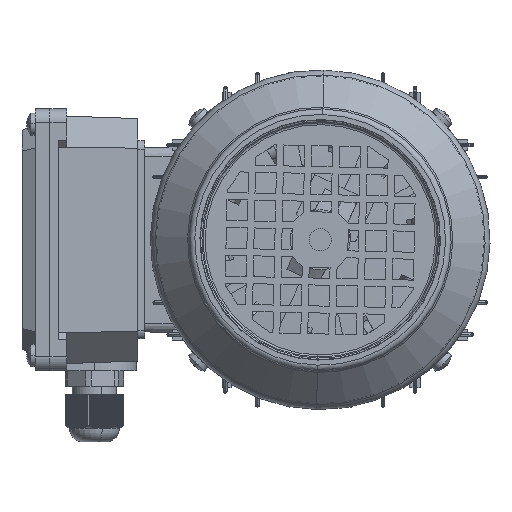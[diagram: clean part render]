
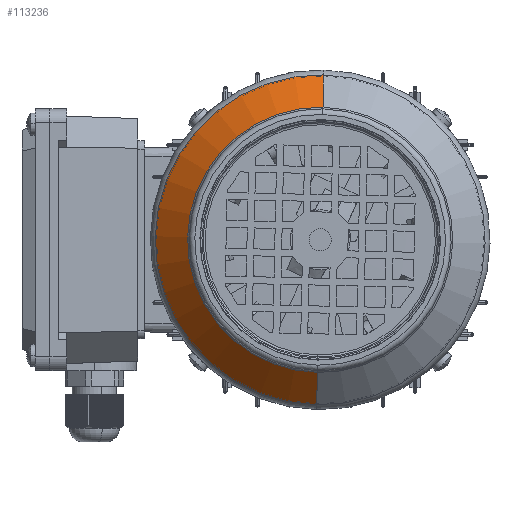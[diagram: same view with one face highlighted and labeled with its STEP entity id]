
A CAD part, left-side view. The second image highlights one B-rep face of the part: STEP entity #113236.
In plain terms, the highlighted conical face has half-angle 45 degrees and reference radius 47.586 mm.
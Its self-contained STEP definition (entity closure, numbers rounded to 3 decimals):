
#969 = CARTESIAN_POINT ( 'NONE',  ( 108.414, 0., 47.586 ) ) ;
#1090 = LINE ( 'NONE', #109073, #53499 ) ;
#3418 = CARTESIAN_POINT ( 'NONE',  ( 108.414, 0., -47.586 ) ) ;
#12176 = CIRCLE ( 'NONE', #63209, 47.586 ) ;
#13025 = EDGE_LOOP ( 'NONE', ( #42925, #118217, #83651, #74033 ) ) ;
#13603 = DIRECTION ( 'NONE',  ( 0., 0., 1. ) ) ;
#21105 = AXIS2_PLACEMENT_3D ( 'NONE', #38161, #25909, #13603 ) ;
#22120 = CARTESIAN_POINT ( 'NONE',  ( 96.807, 0., 0. ) ) ;
#24187 = FACE_OUTER_BOUND ( 'NONE', #13025, .T. ) ;
#24863 = DIRECTION ( 'NONE',  ( 0., 0., 1. ) ) ;
#25909 = DIRECTION ( 'NONE',  ( -1., 0., 0. ) ) ;
#31528 = DIRECTION ( 'NONE',  ( 0., 0., 1. ) ) ;
#31692 = EDGE_CURVE ( 'NONE', #111429, #55547, #101301, .T. ) ;
#32005 = CIRCLE ( 'NONE', #111742, 59.193 ) ;
#33249 = VECTOR ( 'NONE', #64349, 1000. ) ;
#37147 = DIRECTION ( 'NONE',  ( -1., 0., 0. ) ) ;
#38161 = CARTESIAN_POINT ( 'NONE',  ( 108.414, 0., 0. ) ) ;
#41190 = EDGE_CURVE ( 'NONE', #105841, #55547, #32005, .T. ) ;
#41235 = EDGE_CURVE ( 'NONE', #89941, #105841, #1090, .T. ) ;
#42925 = ORIENTED_EDGE ( 'NONE', *, *, #57512, .T. ) ;
#43817 = DIRECTION ( 'NONE',  ( -1., 0., 0. ) ) ;
#48483 = CARTESIAN_POINT ( 'NONE',  ( 96.807, 0., 59.193 ) ) ;
#49445 = CARTESIAN_POINT ( 'NONE',  ( 108.414, 0., 0. ) ) ;
#53499 = VECTOR ( 'NONE', #96677, 1000. ) ;
#55547 = VERTEX_POINT ( 'NONE', #99196 ) ;
#57512 = EDGE_CURVE ( 'NONE', #89941, #111429, #12176, .T. ) ;
#63209 = AXIS2_PLACEMENT_3D ( 'NONE', #49445, #37147, #24863 ) ;
#64349 = DIRECTION ( 'NONE',  ( -0.707, 0., -0.707 ) ) ;
#74033 = ORIENTED_EDGE ( 'NONE', *, *, #41235, .F. ) ;
#76624 = CARTESIAN_POINT ( 'NONE',  ( 108.414, 0., -47.586 ) ) ;
#78342 = CONICAL_SURFACE ( 'NONE', #21105, 47.586, 0.785 ) ;
#83651 = ORIENTED_EDGE ( 'NONE', *, *, #41190, .F. ) ;
#89941 = VERTEX_POINT ( 'NONE', #969 ) ;
#96677 = DIRECTION ( 'NONE',  ( -0.707, 0., 0.707 ) ) ;
#99196 = CARTESIAN_POINT ( 'NONE',  ( 96.807, 0., -59.193 ) ) ;
#101301 = LINE ( 'NONE', #76624, #33249 ) ;
#105841 = VERTEX_POINT ( 'NONE', #48483 ) ;
#109073 = CARTESIAN_POINT ( 'NONE',  ( 108.414, 0., 47.586 ) ) ;
#111429 = VERTEX_POINT ( 'NONE', #3418 ) ;
#111742 = AXIS2_PLACEMENT_3D ( 'NONE', #22120, #43817, #31528 ) ;
#113236 = ADVANCED_FACE ( 'NONE', ( #24187 ), #78342, .T. ) ;
#118217 = ORIENTED_EDGE ( 'NONE', *, *, #31692, .T. ) ;
